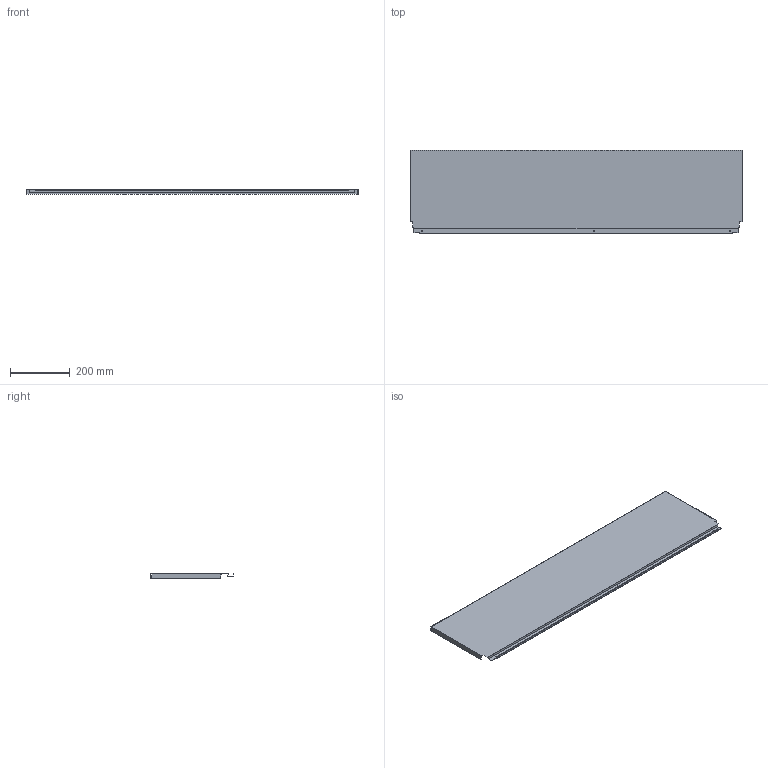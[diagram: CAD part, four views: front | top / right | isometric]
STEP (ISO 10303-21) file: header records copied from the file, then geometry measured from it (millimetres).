
FILE_DESCRIPTION (( 'STEP AP214' ), '1' );
FILE_NAME ('_DWD_XP Stahlrückwand_H278_KAB1200_S18.step', '2010-07-08T13:04:02', ( 'grass' ), ( '' ), 'SwSTEP 2.0', 'SolidWorks 2010', '' );
FILE_SCHEMA (( 'AUTOMOTIVE_DESIGN' ));
Length unit declared in the file: millimetre
Products named in the file (1): _DWD_XP Stahlrückwand_H278_KAB1200_S18
Bounding box: 1113 x 278.57 x 16 mm (x, y, z)
Volume: 307245.5 mm3; surface area: 700766.7 mm2
Topology: 1 solids, 1 shells, 46 faces, 132 edges, 88 vertices
Faces by surface type: plane 40, cylinder 6
Entity records: 1534 total; most frequent: CARTESIAN_POINT 267, ORIENTED_EDGE 264, DIRECTION 238, EDGE_CURVE 132, LINE 120, VECTOR 120, VERTEX_POINT 88, AXIS2_PLACEMENT_3D 59
